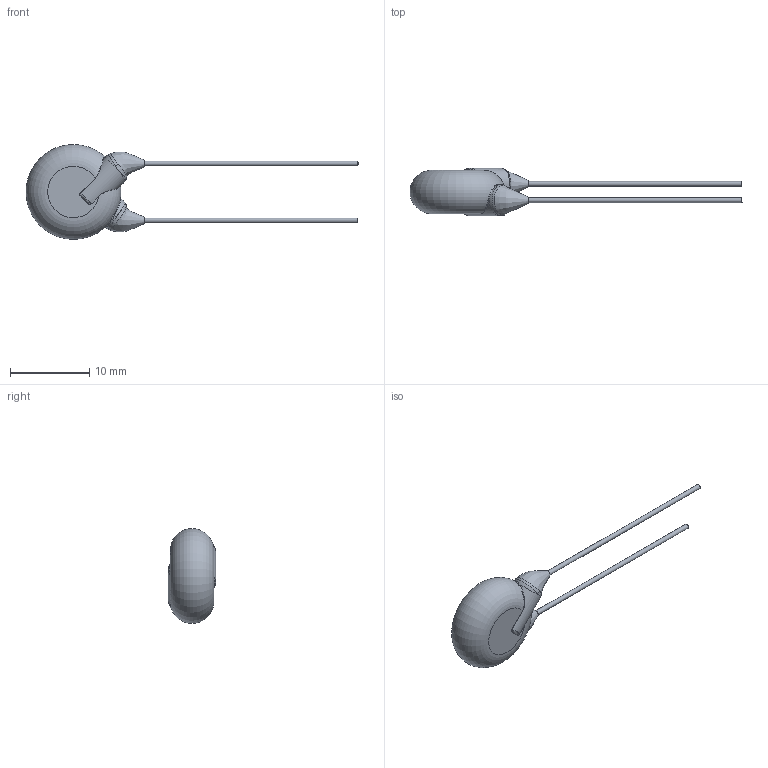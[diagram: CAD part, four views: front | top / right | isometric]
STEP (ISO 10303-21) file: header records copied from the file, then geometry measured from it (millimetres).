
FILE_DESCRIPTION(/* description */ (''),/* implementation_level */ '2;1');
FILE_NAME(/* name */ 'I:\Marketing\M6t1\3D-Models\Zchng-Werk-3\Upload for homepage\Roederstein\VKO\Y5U_300-440\VKO332MCQCF0KR\VKO332MCQCF0KR.stp',/* time_stamp */ '2018-03-15T10:44:30+01:00',/* author */ ('sheinrich'),/* organization */ (''),/* preprocessor_version */ 'ST-DEVELOPER v16.1',/* originating_system */ 'Autodesk Inventor 2016',/* authorisation */ '');
FILE_SCHEMA (('AUTOMOTIVE_DESIGN { 1 0 10303 214 3 1 1 }'));
Length unit declared in the file: centimetre
Products named in the file (1): VKO332MCQCF0KR
Bounding box: 42 x 6 x 11.99 mm (x, y, z)
Volume: 590.2 mm3; surface area: 502.5 mm2
Topology: 1 solids, 1 shells, 39 faces, 92 edges, 53 vertices
Faces by surface type: bspline 22, cylinder 8, plane 6, torus 3
Full cylindrical faces by diameter (mm): 0.6 x2
Entity records: 2642 total; most frequent: CARTESIAN_POINT 1847, ORIENTED_EDGE 168, DIRECTION 104, EDGE_CURVE 84, VERTEX_POINT 52, AXIS2_PLACEMENT_3D 48, B_SPLINE_CURVE_WITH_KNOTS 46, EDGE_LOOP 44
